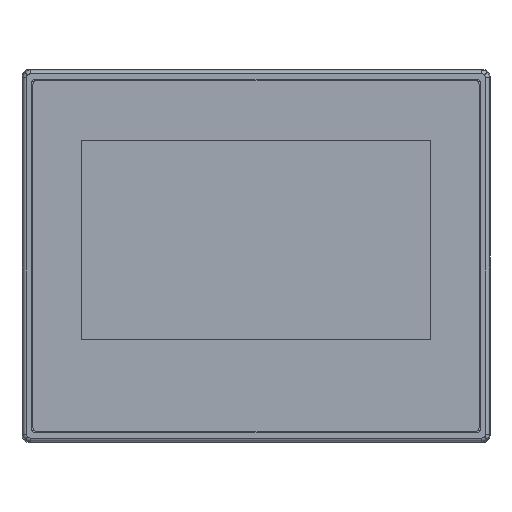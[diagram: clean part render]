
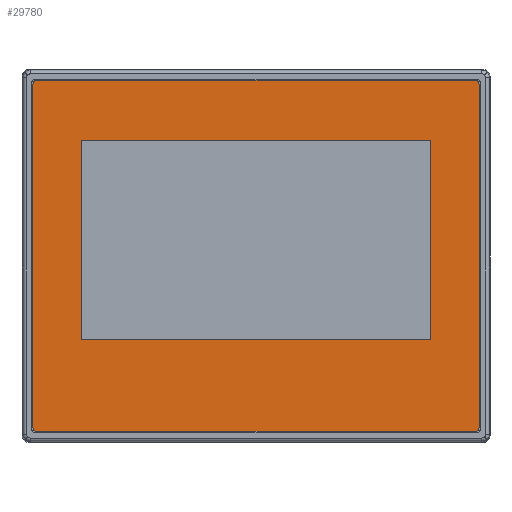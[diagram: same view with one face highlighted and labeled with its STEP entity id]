
A CAD part, top view. The second image highlights one B-rep face of the part: STEP entity #29780.
In plain terms, the highlighted planar face has unit normal (0, 0, 1).
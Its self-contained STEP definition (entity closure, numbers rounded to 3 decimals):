
#564 = AXIS2_PLACEMENT_3D ( 'NONE', #12048, #51151, #20487 ) ;
#641 = EDGE_LOOP ( 'NONE', ( #44367, #92239, #80445, #53884 ) ) ;
#2799 = CARTESIAN_POINT ( 'NONE',  ( -60., 48., 4.85 ) ) ;
#2941 = EDGE_CURVE ( 'NONE', #46773, #34750, #52951, .T. ) ;
#3266 = DIRECTION ( 'NONE',  ( 1., 0., 0. ) ) ;
#3923 = DIRECTION ( 'NONE',  ( -1., 0., 0. ) ) ;
#6213 = EDGE_CURVE ( 'NONE', #66479, #35143, #20084, .T. ) ;
#7394 = AXIS2_PLACEMENT_3D ( 'NONE', #54604, #37197, #3923 ) ;
#8979 = CARTESIAN_POINT ( 'NONE',  ( 47.85, -22.8, 4.85 ) ) ;
#11187 = CARTESIAN_POINT ( 'NONE',  ( -61., -48., 4.85 ) ) ;
#11538 = EDGE_CURVE ( 'NONE', #34750, #71737, #59269, .T. ) ;
#12048 = CARTESIAN_POINT ( 'NONE',  ( 0., 0., 4.85 ) ) ;
#13493 = CARTESIAN_POINT ( 'NONE',  ( 61., -47., 4.85 ) ) ;
#13993 = FACE_BOUND ( 'NONE', #641, .T. ) ;
#16308 = VERTEX_POINT ( 'NONE', #2799 ) ;
#17017 = DIRECTION ( 'NONE',  ( 0., 0., 1. ) ) ;
#18023 = CARTESIAN_POINT ( 'NONE',  ( 61., 47., 4.85 ) ) ;
#18557 = VECTOR ( 'NONE', #41218, 1000. ) ;
#18719 = CARTESIAN_POINT ( 'NONE',  ( -47.85, 31.7, 4.85 ) ) ;
#18727 = VERTEX_POINT ( 'NONE', #84707 ) ;
#18848 = CARTESIAN_POINT ( 'NONE',  ( -60., -48., 4.85 ) ) ;
#19371 = DIRECTION ( 'NONE',  ( -1., 0., 0. ) ) ;
#19408 = VECTOR ( 'NONE', #99027, 1000. ) ;
#20084 = LINE ( 'NONE', #102418, #28482 ) ;
#20117 = EDGE_CURVE ( 'NONE', #97186, #54494, #89926, .T. ) ;
#20487 = DIRECTION ( 'NONE',  ( -1., 0., 0. ) ) ;
#23704 = ORIENTED_EDGE ( 'NONE', *, *, #75029, .T. ) ;
#24247 = ORIENTED_EDGE ( 'NONE', *, *, #98207, .T. ) ;
#25572 = EDGE_CURVE ( 'NONE', #58244, #28876, #59632, .T. ) ;
#28482 = VECTOR ( 'NONE', #76083, 1000. ) ;
#28876 = VERTEX_POINT ( 'NONE', #51515 ) ;
#29780 = ADVANCED_FACE ( 'NONE', ( #13993, #91810 ), #91277, .F. ) ;
#31714 = EDGE_CURVE ( 'NONE', #71737, #97186, #82295, .T. ) ;
#33095 = LINE ( 'NONE', #98532, #19408 ) ;
#34128 = VECTOR ( 'NONE', #3266, 1000. ) ;
#34163 = DIRECTION ( 'NONE',  ( -1., 0., 0. ) ) ;
#34309 = VERTEX_POINT ( 'NONE', #52224 ) ;
#34382 = VECTOR ( 'NONE', #42742, 1000. ) ;
#34750 = VERTEX_POINT ( 'NONE', #18848 ) ;
#35143 = VERTEX_POINT ( 'NONE', #18719 ) ;
#37197 = DIRECTION ( 'NONE',  ( 0., 0., 1. ) ) ;
#37762 = DIRECTION ( 'NONE',  ( -1., 0., 0. ) ) ;
#38273 = LINE ( 'NONE', #79446, #48624 ) ;
#40588 = CARTESIAN_POINT ( 'NONE',  ( -47.85, -22.8, 4.85 ) ) ;
#41218 = DIRECTION ( 'NONE',  ( 0., 1., 0. ) ) ;
#42742 = DIRECTION ( 'NONE',  ( 1., 0., 0. ) ) ;
#44367 = ORIENTED_EDGE ( 'NONE', *, *, #6213, .F. ) ;
#44621 = ORIENTED_EDGE ( 'NONE', *, *, #56564, .T. ) ;
#46269 = ORIENTED_EDGE ( 'NONE', *, *, #11538, .T. ) ;
#46773 = VERTEX_POINT ( 'NONE', #53567 ) ;
#48624 = VECTOR ( 'NONE', #71530, 1000. ) ;
#48937 = CARTESIAN_POINT ( 'NONE',  ( 60., -48., 4.85 ) ) ;
#50233 = AXIS2_PLACEMENT_3D ( 'NONE', #98033, #51546, #34163 ) ;
#51151 = DIRECTION ( 'NONE',  ( 0., 0., -1. ) ) ;
#51515 = CARTESIAN_POINT ( 'NONE',  ( 47.85, -22.8, 4.85 ) ) ;
#51546 = DIRECTION ( 'NONE',  ( 0., 0., 1. ) ) ;
#52224 = CARTESIAN_POINT ( 'NONE',  ( -61., 47., 4.85 ) ) ;
#52951 = CIRCLE ( 'NONE', #7394, 1. ) ;
#53567 = CARTESIAN_POINT ( 'NONE',  ( -61., -47., 4.85 ) ) ;
#53884 = ORIENTED_EDGE ( 'NONE', *, *, #78720, .F. ) ;
#54494 = VERTEX_POINT ( 'NONE', #18023 ) ;
#54604 = CARTESIAN_POINT ( 'NONE',  ( -60., -47., 4.85 ) ) ;
#54764 = AXIS2_PLACEMENT_3D ( 'NONE', #83801, #91731, #19371 ) ;
#56564 = EDGE_CURVE ( 'NONE', #54494, #18727, #67564, .T. ) ;
#57183 = CARTESIAN_POINT ( 'NONE',  ( 60., 47., 4.85 ) ) ;
#58244 = VERTEX_POINT ( 'NONE', #40588 ) ;
#59269 = LINE ( 'NONE', #11187, #34128 ) ;
#59632 = LINE ( 'NONE', #68590, #34382 ) ;
#61161 = VECTOR ( 'NONE', #89389, 1000. ) ;
#64588 = CARTESIAN_POINT ( 'NONE',  ( 61., -48., 4.85 ) ) ;
#65100 = DIRECTION ( 'NONE',  ( -1., 0., 0. ) ) ;
#66479 = VERTEX_POINT ( 'NONE', #67349 ) ;
#67349 = CARTESIAN_POINT ( 'NONE',  ( 47.85, 31.7, 4.85 ) ) ;
#67564 = CIRCLE ( 'NONE', #81046, 1. ) ;
#68590 = CARTESIAN_POINT ( 'NONE',  ( -47.85, -22.8, 4.85 ) ) ;
#69965 = CARTESIAN_POINT ( 'NONE',  ( -61., 48., 4.85 ) ) ;
#70712 = ORIENTED_EDGE ( 'NONE', *, *, #78692, .T. ) ;
#71530 = DIRECTION ( 'NONE',  ( 0., -1., 0. ) ) ;
#71737 = VERTEX_POINT ( 'NONE', #48937 ) ;
#75029 = EDGE_CURVE ( 'NONE', #34309, #46773, #33095, .T. ) ;
#75989 = ORIENTED_EDGE ( 'NONE', *, *, #2941, .T. ) ;
#76083 = DIRECTION ( 'NONE',  ( -1., 0., 0. ) ) ;
#77275 = VECTOR ( 'NONE', #37762, 1000. ) ;
#78692 = EDGE_CURVE ( 'NONE', #18727, #16308, #103202, .T. ) ;
#78720 = EDGE_CURVE ( 'NONE', #35143, #58244, #38273, .T. ) ;
#79446 = CARTESIAN_POINT ( 'NONE',  ( -47.85, 31.7, 4.85 ) ) ;
#80445 = ORIENTED_EDGE ( 'NONE', *, *, #25572, .F. ) ;
#81046 = AXIS2_PLACEMENT_3D ( 'NONE', #57183, #17017, #65100 ) ;
#82295 = CIRCLE ( 'NONE', #50233, 1. ) ;
#83801 = CARTESIAN_POINT ( 'NONE',  ( -60., 47., 4.85 ) ) ;
#84707 = CARTESIAN_POINT ( 'NONE',  ( 60., 48., 4.85 ) ) ;
#85100 = EDGE_LOOP ( 'NONE', ( #23704, #75989, #46269, #102722, #89611, #44621, #70712, #24247 ) ) ;
#88443 = CIRCLE ( 'NONE', #54764, 1. ) ;
#89389 = DIRECTION ( 'NONE',  ( 0., 1., 0. ) ) ;
#89611 = ORIENTED_EDGE ( 'NONE', *, *, #20117, .T. ) ;
#89926 = LINE ( 'NONE', #64588, #61161 ) ;
#91277 = PLANE ( 'NONE',  #564 ) ;
#91731 = DIRECTION ( 'NONE',  ( 0., 0., 1. ) ) ;
#91763 = EDGE_CURVE ( 'NONE', #28876, #66479, #97696, .T. ) ;
#91810 = FACE_OUTER_BOUND ( 'NONE', #85100, .T. ) ;
#92239 = ORIENTED_EDGE ( 'NONE', *, *, #91763, .F. ) ;
#97186 = VERTEX_POINT ( 'NONE', #13493 ) ;
#97696 = LINE ( 'NONE', #8979, #18557 ) ;
#98033 = CARTESIAN_POINT ( 'NONE',  ( 60., -47., 4.85 ) ) ;
#98207 = EDGE_CURVE ( 'NONE', #16308, #34309, #88443, .T. ) ;
#98532 = CARTESIAN_POINT ( 'NONE',  ( -61., -48., 4.85 ) ) ;
#99027 = DIRECTION ( 'NONE',  ( 0., -1., 0. ) ) ;
#102418 = CARTESIAN_POINT ( 'NONE',  ( 47.85, 31.7, 4.85 ) ) ;
#102722 = ORIENTED_EDGE ( 'NONE', *, *, #31714, .T. ) ;
#103202 = LINE ( 'NONE', #69965, #77275 ) ;
